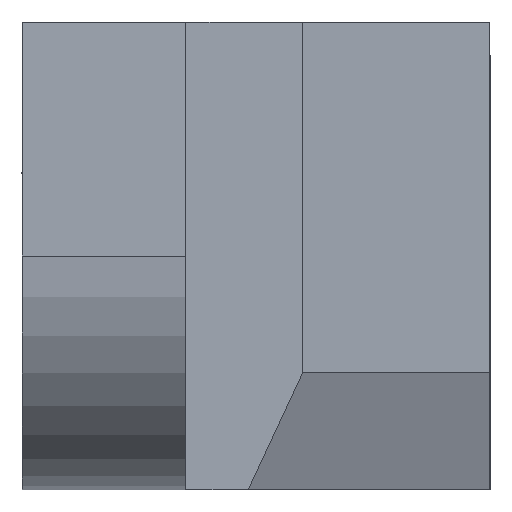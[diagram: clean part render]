
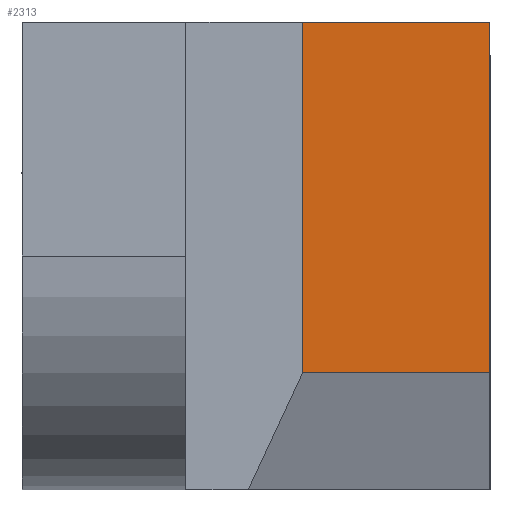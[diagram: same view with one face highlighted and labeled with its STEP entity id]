
A CAD part, left-side view. The second image highlights one B-rep face of the part: STEP entity #2313.
In plain terms, the highlighted planar face has unit normal (-0.625, -0.781, 0).
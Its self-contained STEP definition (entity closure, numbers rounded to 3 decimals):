
#112 = CARTESIAN_POINT ( 'NONE',  ( -5.75, 0., -4. ) ) ;
#171 = LINE ( 'NONE', #2012, #1666 ) ;
#257 = CARTESIAN_POINT ( 'NONE',  ( -9.75, 3.2, 4. ) ) ;
#346 = LINE ( 'NONE', #112, #454 ) ;
#454 = VECTOR ( 'NONE', #2194, 1000. ) ;
#499 = CARTESIAN_POINT ( 'NONE',  ( -5.75, 0., 4. ) ) ;
#539 = EDGE_CURVE ( 'NONE', #1827, #1216, #346, .T. ) ;
#734 = DIRECTION ( 'NONE',  ( -0.781, 0.625, 0. ) ) ;
#939 = EDGE_LOOP ( 'NONE', ( #2213, #2241, #1683, #1559 ) ) ;
#957 = CARTESIAN_POINT ( 'NONE',  ( -9.75, 3.2, 4. ) ) ;
#1039 = EDGE_CURVE ( 'NONE', #1386, #1827, #171, .T. ) ;
#1040 = VECTOR ( 'NONE', #1385, 1000. ) ;
#1187 = LINE ( 'NONE', #957, #1517 ) ;
#1216 = VERTEX_POINT ( 'NONE', #499 ) ;
#1385 = DIRECTION ( 'NONE',  ( 0., 0., 1. ) ) ;
#1386 = VERTEX_POINT ( 'NONE', #1601 ) ;
#1410 = DIRECTION ( 'NONE',  ( -0.781, 0.625, 0. ) ) ;
#1487 = EDGE_CURVE ( 'NONE', #1216, #1488, #1187, .T. ) ;
#1488 = VERTEX_POINT ( 'NONE', #257 ) ;
#1517 = VECTOR ( 'NONE', #734, 1000. ) ;
#1547 = CARTESIAN_POINT ( 'NONE',  ( -5.75, 0., -2. ) ) ;
#1559 = ORIENTED_EDGE ( 'NONE', *, *, #1487, .T. ) ;
#1601 = CARTESIAN_POINT ( 'NONE',  ( -9.75, 3.2, -2. ) ) ;
#1636 = CARTESIAN_POINT ( 'NONE',  ( -9.75, 3.2, -4. ) ) ;
#1656 = DIRECTION ( 'NONE',  ( 0.625, 0.781, 0. ) ) ;
#1666 = VECTOR ( 'NONE', #1769, 1000. ) ;
#1683 = ORIENTED_EDGE ( 'NONE', *, *, #539, .T. ) ;
#1769 = DIRECTION ( 'NONE',  ( 0.781, -0.625, 0. ) ) ;
#1827 = VERTEX_POINT ( 'NONE', #1547 ) ;
#1900 = CARTESIAN_POINT ( 'NONE',  ( -9.75, 3.2, -4. ) ) ;
#2012 = CARTESIAN_POINT ( 'NONE',  ( -9.75, 3.2, -2. ) ) ;
#2081 = EDGE_CURVE ( 'NONE', #1386, #1488, #2118, .T. ) ;
#2118 = LINE ( 'NONE', #1636, #1040 ) ;
#2137 = AXIS2_PLACEMENT_3D ( 'NONE', #1900, #1656, #1410 ) ;
#2142 = PLANE ( 'NONE',  #2137 ) ;
#2194 = DIRECTION ( 'NONE',  ( 0., 0., 1. ) ) ;
#2196 = FACE_OUTER_BOUND ( 'NONE', #939, .T. ) ;
#2213 = ORIENTED_EDGE ( 'NONE', *, *, #2081, .F. ) ;
#2241 = ORIENTED_EDGE ( 'NONE', *, *, #1039, .T. ) ;
#2313 = ADVANCED_FACE ( 'NONE', ( #2196 ), #2142, .F. ) ;
